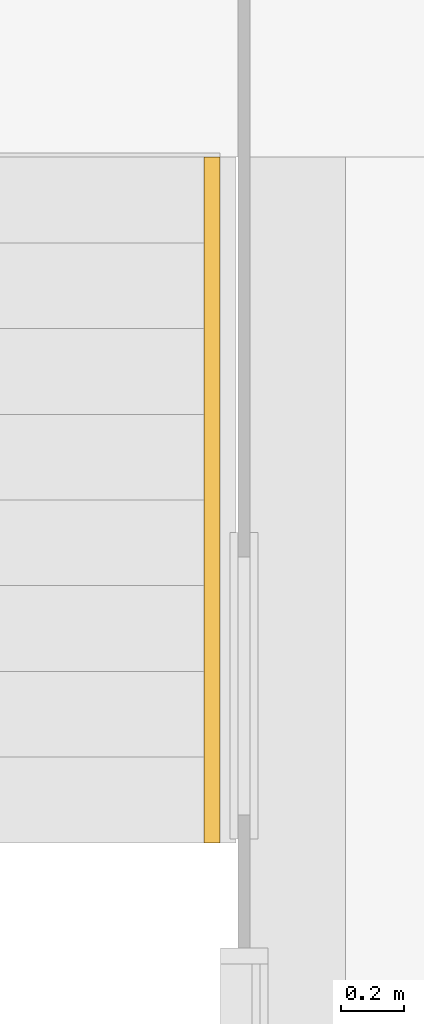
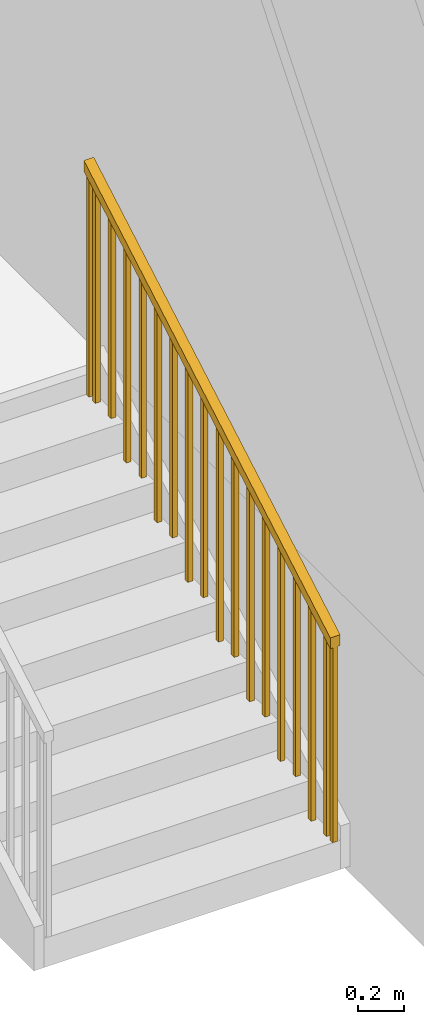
# One storey, part 57 of 64: 1 railing, 1 element without a shape of its own.
"""IFC2X3 building model written with IfcOpenShell, lengths in millimetres."""

from ifc_helpers import new_model, entity, si_unit, converted_unit, derived_unit, direction, frame, origin, place, context, subcontext, project, spatial, polyline, outline, extrude, element, aggregate, save


model = new_model("IFC2X3")

# Units and contexts
model_context = context("Model", 3, precision=0.01, world=origin(), true_north=direction((4.05803320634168e-15, -1.0)))
body_context = subcontext(model_context, "Body", "Model", "MODEL_VIEW")
ifc_project = project(units=[si_unit("LENGTHUNIT", "METRE", prefix="MILLI"), si_unit("AREAUNIT", "SQUARE_METRE"), si_unit("VOLUMEUNIT", "CUBIC_METRE"), converted_unit("PLANEANGLEUNIT", "DEGREE", entity("IfcRatioMeasure", 0.0174532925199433), si_unit("PLANEANGLEUNIT", "RADIAN"), dimensions=[0, 0, 0, 0, 0, 0, 0]), si_unit("MASSUNIT", "GRAM", prefix="KILO"), derived_unit("MASSDENSITYUNIT", [(si_unit("MASSUNIT", "GRAM", prefix="KILO"), 1), (si_unit("LENGTHUNIT", "METRE"), -3)]), si_unit("TIMEUNIT", "SECOND"), si_unit("FREQUENCYUNIT", "HERTZ"), si_unit("THERMODYNAMICTEMPERATUREUNIT", "DEGREE_CELSIUS"), derived_unit("THERMALTRANSMITTANCEUNIT", [(si_unit("MASSUNIT", "GRAM", prefix="KILO"), 1), (si_unit("THERMODYNAMICTEMPERATUREUNIT", "KELVIN"), -1), (si_unit("TIMEUNIT", "SECOND"), -3)]), derived_unit("VOLUMETRICFLOWRATEUNIT", [(si_unit("LENGTHUNIT", "METRE"), 3), (si_unit("TIMEUNIT", "SECOND"), -1)]), si_unit("ELECTRICCURRENTUNIT", "AMPERE"), si_unit("ELECTRICVOLTAGEUNIT", "VOLT"), si_unit("POWERUNIT", "WATT"), si_unit("FORCEUNIT", "NEWTON", prefix="KILO"), si_unit("ILLUMINANCEUNIT", "LUX"), si_unit("LUMINOUSFLUXUNIT", "LUMEN"), si_unit("LUMINOUSINTENSITYUNIT", "CANDELA"), derived_unit("USERDEFINED", [(si_unit("MASSUNIT", "GRAM", prefix="KILO"), -1), (si_unit("LENGTHUNIT", "METRE"), -2), (si_unit("TIMEUNIT", "SECOND"), 3), (si_unit("LUMINOUSFLUXUNIT", "LUMEN"), 1)]), derived_unit("LINEARVELOCITYUNIT", [(si_unit("LENGTHUNIT", "METRE"), 1), (si_unit("TIMEUNIT", "SECOND"), -1)]), si_unit("PRESSUREUNIT", "PASCAL"), derived_unit("USERDEFINED", [(si_unit("LENGTHUNIT", "METRE"), -2), (si_unit("MASSUNIT", "GRAM", prefix="KILO"), 1), (si_unit("TIMEUNIT", "SECOND"), -2)])], contexts=[model_context])

# Site, building, storey
site_placement = place(None, frame((927466.849349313, 583801.882853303, 0.0), z_axis=(0.0, 0.0, 1.0), x_axis=(-1.0, 0.0, 0.0)))
site = spatial("IfcSite", under=ifc_project, at=site_placement, Name="Surface", CompositionType="ELEMENT")
building_placement = place(site_placement, origin())
building = spatial("IfcBuilding", under=site, at=building_placement, CompositionType="ELEMENT")
storey_placement = place(building_placement, frame((0.0, 0.0, 44170.0)))
storey = spatial("IfcBuildingStorey", under=building, at=storey_placement, Name="Ground FFL", CompositionType="ELEMENT", Elevation=44170.0)

# Stair, railing
stair_placement = place(storey_placement, origin())
stair = element("IfcStair", 1, at=stair_placement, inside=storey, Name="Assembled Stair:Stair", ObjectType="Assembled Stair:170mm max riser 270mm going", ShapeType="NOTDEFINED")
railing_placement = place(stair_placement, frame((0.0, 0.0, -1360.0)))
railing = element("IfcRailing", 2, at=railing_placement, Name="Railing:1100mm", ObjectType="Railing:1100mm", PredefinedType="NOTDEFINED", context=body_context, shape_type="SweptSolid", body=[
    extrude(outline(polyline([(274.855355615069, -502.110036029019), (303.707648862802, -502.110036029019), (-278.45047410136, 508.350134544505), (-300.112530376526, 495.869937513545), (274.855355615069, -502.110036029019)])), frame((-80692.7913038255, 15924.9703266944, 1783.92548453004), z_axis=(1.0, 0.0, 0.0), x_axis=(0.0, -0.866482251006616, 0.499207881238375)), (0.0, 0.0, 1.0), 25.0000000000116),
    extrude(outline(polyline([(255.441715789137, -468.413504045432), (284.29400903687, -468.413504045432), (-259.03683427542, 474.653602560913), (-280.698890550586, 462.173405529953), (255.441715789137, -468.413504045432)])), frame((-80692.7913038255, 16059.9703266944, 1745.03659564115), z_axis=(1.0, 0.0, 0.0), x_axis=(0.0, -0.866482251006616, 0.499207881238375)), (0.0, 0.0, 1.0), 25.0000000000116),
    extrude(outline(polyline([(274.855355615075, -502.110036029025), (303.707648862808, -502.110036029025), (-278.450474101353, 508.350134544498), (-300.11253037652, 495.869937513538), (274.855355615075, -502.110036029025)])), frame((-80692.7913038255, 16194.9703266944, 1628.36992897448), z_axis=(1.0, 0.0, 0.0), x_axis=(0.0, -0.866482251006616, 0.499207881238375)), (0.0, 0.0, 1.0), 25.0000000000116),
    extrude(outline(polyline([(255.441715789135, -468.413504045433), (284.294009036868, -468.413504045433), (-259.036834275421, 474.653602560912), (-280.698890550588, 462.173405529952), (255.441715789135, -468.413504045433)])), frame((-80692.7913038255, 16329.9703266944, 1589.48104008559), z_axis=(1.0, 0.0, 0.0), x_axis=(0.0, -0.866482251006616, 0.499207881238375)), (0.0, 0.0, 1.0), 25.0000000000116),
    extrude(outline(polyline([(274.855355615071, -502.110036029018), (303.707648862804, -502.110036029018), (-278.450474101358, 508.350134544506), (-300.112530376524, 495.869937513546), (274.855355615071, -502.110036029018)])), frame((-80692.7913038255, 16464.9703266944, 1472.81437341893), z_axis=(1.0, 0.0, 0.0), x_axis=(0.0, -0.866482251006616, 0.499207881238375)), (0.0, 0.0, 1.0), 25.0000000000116),
    extrude(outline(polyline([(255.441715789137, -468.413504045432), (284.29400903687, -468.413504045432), (-259.03683427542, 474.653602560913), (-280.698890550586, 462.173405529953), (255.441715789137, -468.413504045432)])), frame((-80692.7913038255, 16599.9703266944, 1433.92548453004), z_axis=(1.0, 0.0, 0.0), x_axis=(0.0, -0.866482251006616, 0.499207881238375)), (0.0, 0.0, 1.0), 25.0000000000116),
    extrude(outline(polyline([(274.855355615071, -502.110036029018), (303.707648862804, -502.110036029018), (-278.450474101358, 508.350134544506), (-300.112530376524, 495.869937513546), (274.855355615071, -502.110036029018)])), frame((-80692.7913038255, 16734.9703266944, 1317.25881786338), z_axis=(1.0, 0.0, 0.0), x_axis=(0.0, -0.866482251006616, 0.499207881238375)), (0.0, 0.0, 1.0), 25.0000000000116),
    extrude(outline(polyline([(255.441715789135, -468.413504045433), (284.294009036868, -468.413504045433), (-259.036834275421, 474.653602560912), (-280.698890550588, 462.173405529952), (255.441715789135, -468.413504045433)])), frame((-80692.7913038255, 16869.9703266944, 1278.36992897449), z_axis=(1.0, 0.0, 0.0), x_axis=(0.0, -0.866482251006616, 0.499207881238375)), (0.0, 0.0, 1.0), 25.0000000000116),
    extrude(outline(polyline([(274.855355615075, -502.110036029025), (303.707648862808, -502.110036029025), (-278.450474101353, 508.350134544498), (-300.11253037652, 495.869937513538), (274.855355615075, -502.110036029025)])), frame((-80692.7913038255, 17004.9703266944, 1161.70326230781), z_axis=(1.0, 0.0, 0.0), x_axis=(0.0, -0.866482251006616, 0.499207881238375)), (0.0, 0.0, 1.0), 25.0000000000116),
    extrude(outline(polyline([(255.441715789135, -468.413504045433), (284.294009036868, -468.413504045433), (-259.036834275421, 474.653602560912), (-280.698890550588, 462.173405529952), (255.441715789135, -468.413504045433)])), frame((-80692.7913038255, 17139.9703266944, 1122.81437341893), z_axis=(1.0, 0.0, 0.0), x_axis=(0.0, -0.866482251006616, 0.499207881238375)), (0.0, 0.0, 1.0), 25.0000000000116),
    extrude(outline(polyline([(274.855355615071, -502.110036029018), (303.707648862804, -502.110036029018), (-278.450474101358, 508.350134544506), (-300.112530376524, 495.869937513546), (274.855355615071, -502.110036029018)])), frame((-80692.7913038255, 17274.9703266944, 1006.14770675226), z_axis=(1.0, 0.0, 0.0), x_axis=(0.0, -0.866482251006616, 0.499207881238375)), (0.0, 0.0, 1.0), 25.0000000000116),
    extrude(outline(polyline([(255.441715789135, -468.413504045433), (284.294009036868, -468.413504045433), (-259.036834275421, 474.653602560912), (-280.698890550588, 462.173405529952), (255.441715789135, -468.413504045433)])), frame((-80692.7913038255, 17409.9703266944, 967.258817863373), z_axis=(1.0, 0.0, 0.0), x_axis=(0.0, -0.866482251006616, 0.499207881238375)), (0.0, 0.0, 1.0), 25.0000000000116),
    extrude(outline(polyline([(274.855355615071, -502.110036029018), (303.707648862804, -502.110036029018), (-278.450474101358, 508.350134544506), (-300.112530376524, 495.869937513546), (274.855355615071, -502.110036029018)])), frame((-80692.7913038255, 17544.9703266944, 850.592151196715), z_axis=(1.0, 0.0, 0.0), x_axis=(0.0, -0.866482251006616, 0.499207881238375)), (0.0, 0.0, 1.0), 25.0000000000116),
    extrude(outline(polyline([(255.441715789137, -468.413504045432), (284.29400903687, -468.413504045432), (-259.03683427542, 474.653602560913), (-280.698890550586, 462.173405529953), (255.441715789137, -468.413504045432)])), frame((-80692.7913038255, 17679.9703266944, 811.703262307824), z_axis=(1.0, 0.0, 0.0), x_axis=(0.0, -0.866482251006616, 0.499207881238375)), (0.0, 0.0, 1.0), 25.0000000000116),
    extrude(outline(polyline([(274.855355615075, -502.110036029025), (303.707648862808, -502.110036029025), (-278.450474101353, 508.350134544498), (-300.11253037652, 495.869937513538), (274.855355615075, -502.110036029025)])), frame((-80692.7913038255, 17814.9703266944, 695.036595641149), z_axis=(1.0, 0.0, 0.0), x_axis=(0.0, -0.866482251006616, 0.499207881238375)), (0.0, 0.0, 1.0), 25.0000000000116),
    extrude(outline(polyline([(255.441715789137, -468.413504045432), (284.29400903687, -468.413504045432), (-259.03683427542, 474.653602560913), (-280.698890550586, 462.173405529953), (255.441715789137, -468.413504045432)])), frame((-80692.7913038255, 17949.9703266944, 656.147706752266), z_axis=(1.0, 0.0, 0.0), x_axis=(0.0, -0.866482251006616, 0.499207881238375)), (0.0, 0.0, 1.0), 25.0000000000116),
    extrude(outline(polyline([(282.7646162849, -515.838252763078), (311.616909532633, -515.838252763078), (-286.359734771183, 522.078351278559), (-308.021791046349, 509.598154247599), (282.7646162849, -515.838252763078)])), frame((-80692.7913038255, 15869.9703266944, 1799.76910592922), z_axis=(1.0, 0.0, 0.0), x_axis=(0.0, -0.866482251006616, 0.499207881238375)), (0.0, 0.0, 1.0), 25.0000000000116),
    extrude(outline(polyline([(247.532455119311, -454.68528731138), (276.384748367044, -454.68528731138), (-251.127573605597, 460.925385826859), (-272.789629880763, 448.445188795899), (247.532455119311, -454.68528731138)])), frame((-80692.7913038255, 18004.9703266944, 640.304085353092), z_axis=(1.0, 0.0, 0.0), x_axis=(0.0, -0.866482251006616, 0.499207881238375)), (0.0, 0.0, 1.0), 25.0000000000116),
    extrude(outline(polyline([(-1232.01577612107, -25.0), (1260.8223604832, -25.0), (1232.01577612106, 25.0), (-1260.82236048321, 25.0), (-1232.01577612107, -25.0)])), frame((-80705.2913038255, 16937.4703266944, 1808.92548453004), z_axis=(1.0, 0.0, 0.0), x_axis=(0.0, -0.866482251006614, 0.499207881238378)), (0.0, 0.0, 1.0), 49.9999999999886),
])
aggregate(stair, [railing])

save(model, "model.ifc")
